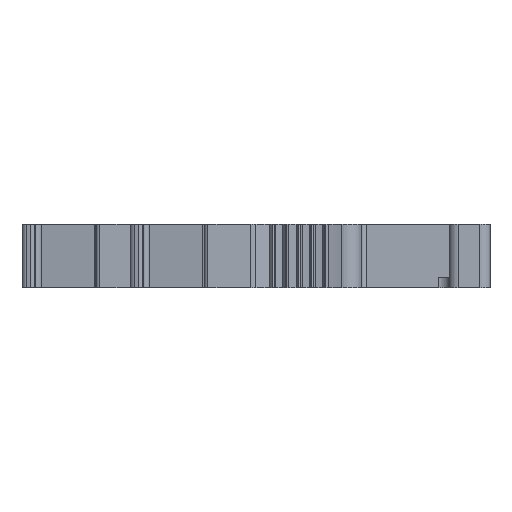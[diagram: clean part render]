
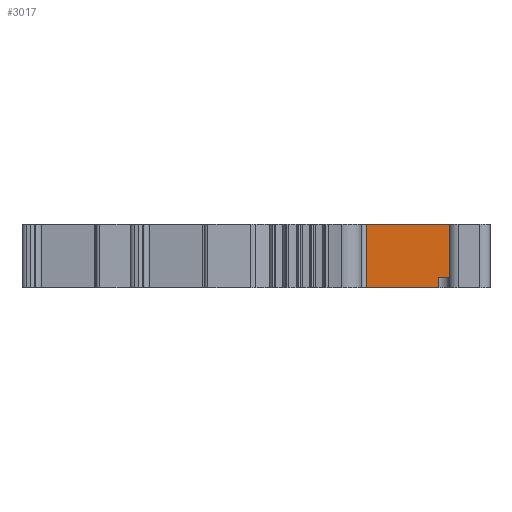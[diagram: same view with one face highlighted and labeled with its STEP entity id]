
A CAD part, left-side view. The second image highlights one B-rep face of the part: STEP entity #3017.
In plain terms, the highlighted planar face has unit normal (-1, 0, 0).
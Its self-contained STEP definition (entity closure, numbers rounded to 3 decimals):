
#3017=ADVANCED_FACE('',(#3667),#3374,.T.);
#3374=PLANE('',#10124);
#3667=FACE_OUTER_BOUND('',#4053,.T.);
#4053=EDGE_LOOP('',(#5167,#5168,#5169,#5170,#5171,#5172));
#5167=ORIENTED_EDGE('',*,*,#7961,.F.);
#5168=ORIENTED_EDGE('',*,*,#7962,.T.);
#5169=ORIENTED_EDGE('',*,*,#7378,.T.);
#5170=ORIENTED_EDGE('',*,*,#7963,.T.);
#5171=ORIENTED_EDGE('',*,*,#7755,.T.);
#5172=ORIENTED_EDGE('',*,*,#7951,.T.);
#6652=VERTEX_POINT('',#12693);
#6653=VERTEX_POINT('',#12695);
#6986=VERTEX_POINT('',#13654);
#6987=VERTEX_POINT('',#13656);
#7147=VERTEX_POINT('',#14117);
#7150=VERTEX_POINT('',#14136);
#7378=EDGE_CURVE('',#6653,#6652,#8405,.T.);
#7755=EDGE_CURVE('',#6987,#6986,#8615,.T.);
#7951=EDGE_CURVE('',#6986,#7147,#8747,.T.);
#7961=EDGE_CURVE('',#7150,#7147,#8757,.T.);
#7962=EDGE_CURVE('',#7150,#6653,#8758,.T.);
#7963=EDGE_CURVE('',#6652,#6987,#8759,.T.);
#8405=LINE('',#12694,#9158);
#8615=LINE('',#13655,#9368);
#8747=LINE('',#14118,#9500);
#8757=LINE('',#14135,#9510);
#8758=LINE('',#14137,#9511);
#8759=LINE('',#14138,#9512);
#9158=VECTOR('',#10577,1.);
#9368=VECTOR('',#11077,1.);
#9500=VECTOR('',#11357,1.);
#9510=VECTOR('',#11377,1.);
#9511=VECTOR('',#11378,1.);
#9512=VECTOR('',#11379,1.);
#10124=AXIS2_PLACEMENT_3D('',#14139,#11380,#11381);
#10577=DIRECTION('',(0.,1.,0.));
#11077=DIRECTION('',(0.,-1.,0.));
#11357=DIRECTION('',(0.,0.,1.));
#11377=DIRECTION('',(0.,1.,0.));
#11378=DIRECTION('',(0.,0.,1.));
#11379=DIRECTION('',(0.,0.,-1.));
#11380=DIRECTION('',(-1.,0.,0.));
#11381=DIRECTION('',(0.,0.,1.));
#12693=CARTESIAN_POINT('',(-42.555,-8.569,3.1));
#12694=CARTESIAN_POINT('',(-42.555,-14.162,3.1));
#12695=CARTESIAN_POINT('',(-42.555,-18.669,3.1));
#13654=CARTESIAN_POINT('',(-42.555,-15.669,-3.1));
#13655=CARTESIAN_POINT('',(-42.555,-14.162,-3.1));
#13656=CARTESIAN_POINT('',(-42.555,-8.569,-3.1));
#14117=CARTESIAN_POINT('',(-42.555,-15.669,-2.1));
#14118=CARTESIAN_POINT('',(-42.555,-15.669,2.6));
#14135=CARTESIAN_POINT('',(-42.555,-19.169,-2.1));
#14136=CARTESIAN_POINT('',(-42.555,-18.669,-2.1));
#14137=CARTESIAN_POINT('',(-42.555,-18.669,2.6));
#14138=CARTESIAN_POINT('',(-42.555,-8.569,2.6));
#14139=CARTESIAN_POINT('',(-42.555,-14.162,2.6));
